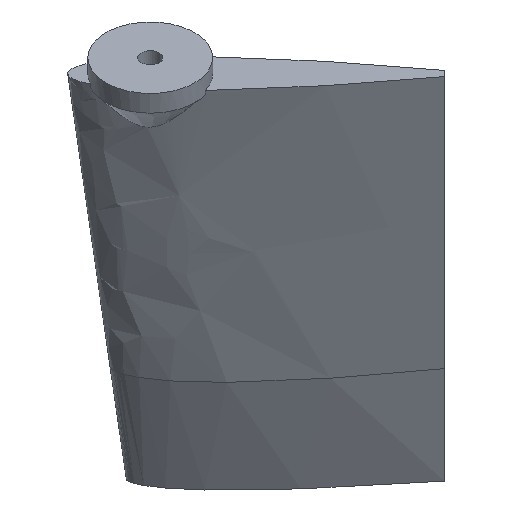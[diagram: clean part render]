
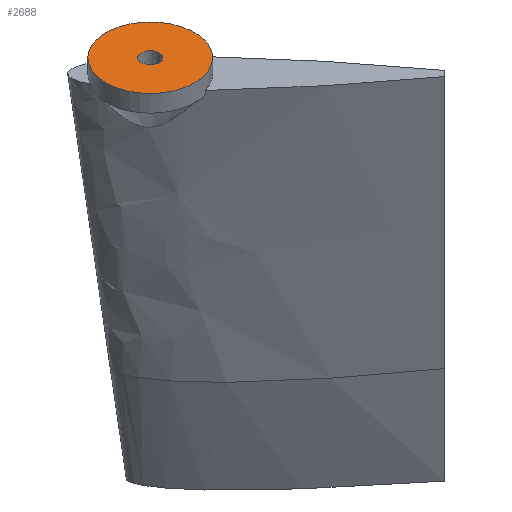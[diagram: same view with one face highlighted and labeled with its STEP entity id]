
A CAD part, top view. The second image highlights one B-rep face of the part: STEP entity #2688.
In plain terms, the highlighted planar face has unit normal (0, 0.819, 0.574).
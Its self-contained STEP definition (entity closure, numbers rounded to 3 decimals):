
#336 = CYLINDRICAL_SURFACE('',#337,6.5);
#337 = AXIS2_PLACEMENT_3D('',#338,#339,#340);
#338 = CARTESIAN_POINT('',(413.4,-18.431,-12.905));
#339 = DIRECTION('',(-0.,-0.819,-0.574));
#340 = DIRECTION('',(-0.,-0.574,0.819));
#2605 = VERTEX_POINT('',#2606);
#2606 = CARTESIAN_POINT('',(413.4,-22.159,-7.581));
#2658 = EDGE_CURVE('',#2605,#2605,#2659,.T.);
#2659 = SURFACE_CURVE('',#2660,(#2665,#2672),.PCURVE_S1.);
#2660 = CIRCLE('',#2661,6.5);
#2661 = AXIS2_PLACEMENT_3D('',#2662,#2663,#2664);
#2662 = CARTESIAN_POINT('',(413.4,-18.431,-12.905));
#2663 = DIRECTION('',(0.,0.819,0.574));
#2664 = DIRECTION('',(-0.,-0.574,0.819));
#2665 = PCURVE('',#336,#2666);
#2666 = DEFINITIONAL_REPRESENTATION('',(#2667),#2671);
#2667 = LINE('',#2668,#2669);
#2668 = CARTESIAN_POINT('',(-0.,0.));
#2669 = VECTOR('',#2670,1.);
#2670 = DIRECTION('',(-1.,0.));
#2671 = ( GEOMETRIC_REPRESENTATION_CONTEXT(2) 
PARAMETRIC_REPRESENTATION_CONTEXT() REPRESENTATION_CONTEXT('2D SPACE',''
  ) );
#2672 = PCURVE('',#2673,#2678);
#2673 = PLANE('',#2674);
#2674 = AXIS2_PLACEMENT_3D('',#2675,#2676,#2677);
#2675 = CARTESIAN_POINT('',(413.4,-18.431,-12.905));
#2676 = DIRECTION('',(-0.,-0.819,-0.574));
#2677 = DIRECTION('',(0.,0.574,-0.819));
#2678 = DEFINITIONAL_REPRESENTATION('',(#2679),#2687);
#2679 = ( BOUNDED_CURVE() B_SPLINE_CURVE(2,(#2680,#2681,#2682,#2683,
#2684,#2685,#2686),.UNSPECIFIED.,.T.,.F.) B_SPLINE_CURVE_WITH_KNOTS((1,2
    ,2,2,2,1),(-2.094,0.,2.094,4.189,
6.283,8.378),.UNSPECIFIED.) CURVE() 
GEOMETRIC_REPRESENTATION_ITEM() RATIONAL_B_SPLINE_CURVE((1.,0.5,1.,0.5,
1.,0.5,1.)) REPRESENTATION_ITEM('') );
#2680 = CARTESIAN_POINT('',(-6.5,0.));
#2681 = CARTESIAN_POINT('',(-6.5,11.258));
#2682 = CARTESIAN_POINT('',(3.25,5.629));
#2683 = CARTESIAN_POINT('',(13.,0.));
#2684 = CARTESIAN_POINT('',(3.25,-5.629));
#2685 = CARTESIAN_POINT('',(-6.5,-11.258));
#2686 = CARTESIAN_POINT('',(-6.5,0.));
#2687 = ( GEOMETRIC_REPRESENTATION_CONTEXT(2) 
PARAMETRIC_REPRESENTATION_CONTEXT() REPRESENTATION_CONTEXT('2D SPACE',''
  ) );
#2688 = ADVANCED_FACE('',(#2689,#2692),#2673,.F.);
#2689 = FACE_BOUND('',#2690,.T.);
#2690 = EDGE_LOOP('',(#2691));
#2691 = ORIENTED_EDGE('',*,*,#2658,.T.);
#2692 = FACE_BOUND('',#2693,.T.);
#2693 = EDGE_LOOP('',(#2694));
#2694 = ORIENTED_EDGE('',*,*,#2695,.F.);
#2695 = EDGE_CURVE('',#2696,#2696,#2698,.T.);
#2696 = VERTEX_POINT('',#2697);
#2697 = CARTESIAN_POINT('',(413.4,-19.177,-11.841));
#2698 = SURFACE_CURVE('',#2699,(#2704,#2715),.PCURVE_S1.);
#2699 = CIRCLE('',#2700,1.3);
#2700 = AXIS2_PLACEMENT_3D('',#2701,#2702,#2703);
#2701 = CARTESIAN_POINT('',(413.4,-18.431,-12.905));
#2702 = DIRECTION('',(0.,0.819,0.574));
#2703 = DIRECTION('',(-0.,-0.574,0.819));
#2704 = PCURVE('',#2673,#2705);
#2705 = DEFINITIONAL_REPRESENTATION('',(#2706),#2714);
#2706 = ( BOUNDED_CURVE() B_SPLINE_CURVE(2,(#2707,#2708,#2709,#2710,
#2711,#2712,#2713),.UNSPECIFIED.,.T.,.F.) B_SPLINE_CURVE_WITH_KNOTS((1,2
    ,2,2,2,1),(-2.094,0.,2.094,4.189,
6.283,8.378),.UNSPECIFIED.) CURVE() 
GEOMETRIC_REPRESENTATION_ITEM() RATIONAL_B_SPLINE_CURVE((1.,0.5,1.,0.5,
1.,0.5,1.)) REPRESENTATION_ITEM('') );
#2707 = CARTESIAN_POINT('',(-1.3,0.));
#2708 = CARTESIAN_POINT('',(-1.3,2.252));
#2709 = CARTESIAN_POINT('',(0.65,1.126));
#2710 = CARTESIAN_POINT('',(2.6,0.));
#2711 = CARTESIAN_POINT('',(0.65,-1.126));
#2712 = CARTESIAN_POINT('',(-1.3,-2.252));
#2713 = CARTESIAN_POINT('',(-1.3,0.));
#2714 = ( GEOMETRIC_REPRESENTATION_CONTEXT(2) 
PARAMETRIC_REPRESENTATION_CONTEXT() REPRESENTATION_CONTEXT('2D SPACE',''
  ) );
#2715 = PCURVE('',#2716,#2721);
#2716 = CYLINDRICAL_SURFACE('',#2717,1.3);
#2717 = AXIS2_PLACEMENT_3D('',#2718,#2719,#2720);
#2718 = CARTESIAN_POINT('',(413.4,-17.612,-12.332));
#2719 = DIRECTION('',(-0.,-0.819,-0.574));
#2720 = DIRECTION('',(-0.,-0.574,0.819));
#2721 = DEFINITIONAL_REPRESENTATION('',(#2722),#2726);
#2722 = LINE('',#2723,#2724);
#2723 = CARTESIAN_POINT('',(-0.,1.));
#2724 = VECTOR('',#2725,1.);
#2725 = DIRECTION('',(-1.,0.));
#2726 = ( GEOMETRIC_REPRESENTATION_CONTEXT(2) 
PARAMETRIC_REPRESENTATION_CONTEXT() REPRESENTATION_CONTEXT('2D SPACE',''
  ) );
